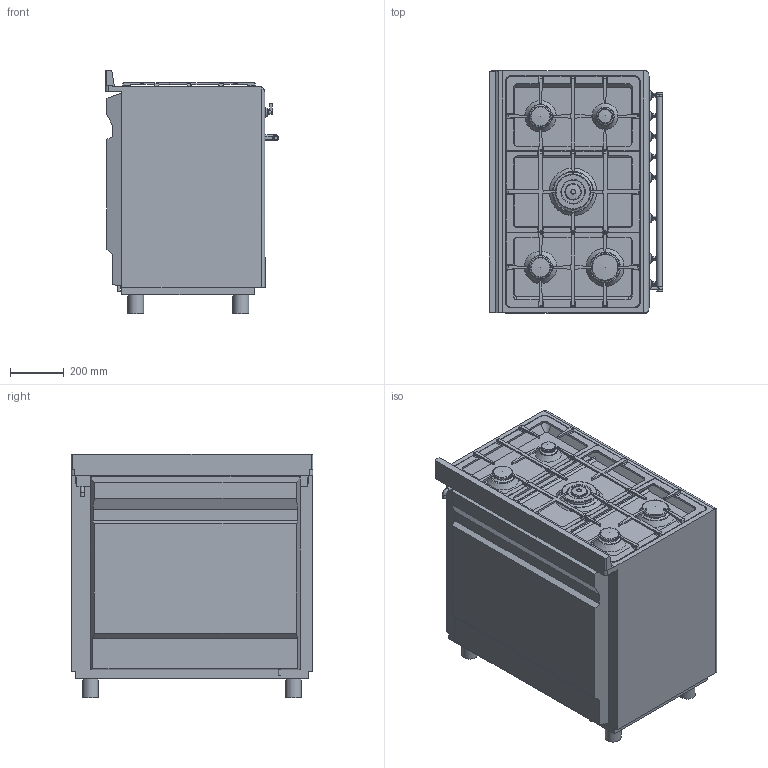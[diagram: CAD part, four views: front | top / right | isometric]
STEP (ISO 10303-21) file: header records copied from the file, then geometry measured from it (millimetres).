
FILE_DESCRIPTION(/* description */ ('Unknown'),/* implementation_level */ '2;1');
FILE_NAME(/* name */ 'SX91GM',/* time_stamp */ '2025-04-16T14:30:16+02:00',/* author */ ('Unknown'),/* organization */ ('Unknown'),/* preprocessor_version */ 'ST-DEVELOPER v16.7',/* originating_system */ 'DEX',/* authorisation */ $);
FILE_SCHEMA (('AUTOMOTIVE_DESIGN {1 0 10303 214 3 1 1}'));
Length unit declared in the file: millimetre
Products named in the file (1): SX91GM
Bounding box: 643.48 x 898 x 904.86 mm (x, y, z)
Volume: 366763316.8 mm3; surface area: 5403829.3 mm2
Topology: 5 solids, 5 shells, 774 faces, 2162 edges, 1453 vertices
Faces by surface type: plane 362, cylinder 287, bspline 68, cone 35, torus 19, sphere 3
Full cylindrical faces by diameter (mm): 4.608 x6, 8 x8, 8.5 x8, 10 x1, 13 x2, 13.5 x2, 14 x2, 14.995 x8, 22 x3, 55 x1, 59 x4, 60.611 x1, 65.5 x1, 75 x2, 85.5 x2, 85.7 x1, 100 x1, 110.5 x1, 131 x1, 147 x1
Entity records: 30637 total; most frequent: CARTESIAN_POINT 8621, ORIENTED_EDGE 3958, DIRECTION 3821, EDGE_CURVE 1979, AXIS2_PLACEMENT_3D 1391, VERTEX_POINT 1381, LINE 1039, VECTOR 1039
